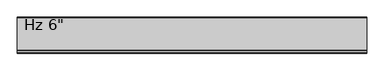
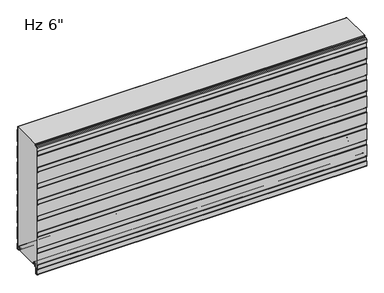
"""IFC4 building model written with IfcOpenShell, lengths in millimetres: plate geometry."""

from ifc_helpers import new_model, si_unit, point, frame, frame_2d, origin, place, context, project, spatial, polyline, circle_curve, trimmed, segment, composite_curve, outline, extrude, source, transform, mapped, element, save
from ifc_brep_helpers import plane_surface, cylinder_surface, revolved_surface, advanced_brep


def plate_8824311e(model_context):
    return source(origin(), model_context, "Body", "SolidModel", [
        advanced_brep(
        [(-730.0, -17.0015368, 2.0313088), (-730.0, -18.00154, 1.0313116), (-730.0, -19.0015313, 2.0313088), (-730.0, -19.0015314, 6.0315125), (-730.0, -18.0015368, 6.0315125), (-730.0, -18.0015368, 8.7237223), (-730.0, -14.7015411, 12.023718), (-730.0, -10.3015499, 12.023718), (-730.0, -7.0015544, 8.7237225), (-730.0, -7.0015544, -1.6962564), (-730.0, -5.2315602, -3.4662506), (-730.0, -1.0000126, -3.4662506), (-730.0, -1.0000126, 21.034026), (-730.0, -2.2002516, 22.4196686), (-730.0, -2.2002516, 41.7948349), (-730.0, -1.0000209, 43.1804679), (-730.0, -1.0000209, 97.2338833), (-730.0, -2.2002516, 98.6195162), (-730.0, -2.2002516, 117.9946825), (-730.0, -1.0000209, 119.3803155), (-730.0, -1.0000209, 173.4337309), (-730.0, -2.2002516, 174.8193638), (-730.0, -2.2002516, 194.1945301), (-730.0, -1.0000209, 195.5801631), (-730.0, -1.0000209, 249.6335785), (-730.0, -2.2002516, 251.0192114), (-730.0, -2.2002516, 270.3943777), (-730.0, -1.0000209, 271.7800107), (-730.0, -1.0000209, 325.8334261), (-730.0, -2.2002516, 327.219059), (-730.0, -2.2002516, 346.5942253), (-730.0, -1.0000209, 347.9798583), (-730.0, -1.0000209, 402.0332737), (-730.0, -2.2002516, 403.4189066), (-730.0, -2.2002516, 422.7940729), (-730.0, -1.0000209, 424.1797059), (-730.0, -1.0000209, 478.2331213), (-730.0, -2.2002516, 479.6187542), (-730.0, -2.2002516, 498.9939205), (-730.0, -1.0000209, 500.3795535), (-730.0, -1.0000209, 554.4329689), (-730.0, -2.2002516, 555.8186018), (-730.0, -2.2002516, 571.2), (-730.0, -1.2002516, 571.2), (-730.0, -1.2002516, 556.1914823), (-730.0, -0.3418094, 555.2004346), (-730.0, -2.09e-05, 554.2838177), (-730.0, -2.09e-05, 500.5287046), (-730.0, -0.3418094, 499.6120877), (-730.0, -1.2002516, 498.6210401), (-730.0, -1.2002516, 479.9916347), (-730.0, -0.3418094, 479.000587), (-730.0, -2.09e-05, 478.0839701), (-730.0, -2.09e-05, 424.328857), (-730.0, -0.3418094, 423.4122401), (-730.0, -1.2002516, 422.4211925), (-730.0, -1.2002516, 403.7917871), (-730.0, -0.3418094, 402.8007394), (-730.0, -2.09e-05, 401.8841225), (-730.0, -2.09e-05, 348.1290094), (-730.0, -0.3418094, 347.2123925), (-730.0, -1.2002516, 346.2213449), (-730.0, -1.2002516, 327.5919395), (-730.0, -0.3418094, 326.6008918), (-730.0, -2.09e-05, 325.6842749), (-730.0, -2.09e-05, 271.9291618), (-730.0, -0.3418094, 271.0125449), (-730.0, -1.2002516, 270.0214973), (-730.0, -1.2002516, 251.3920919), (-730.0, -0.3418094, 250.4010442), (-730.0, -2.09e-05, 249.4844273), (-730.0, -2.09e-05, 195.7293142), (-730.0, -0.3418094, 194.8126973), (-730.0, -1.2002516, 193.8216497), (-730.0, -1.2002516, 175.1922443), (-730.0, -0.3418094, 174.2011966), (-730.0, -2.09e-05, 173.2845797), (-730.0, -2.09e-05, 119.5294666), (-730.0, -0.3418094, 118.6128497), (-730.0, -1.2002516, 117.6218021), (-730.0, -1.2002516, 98.9923967), (-730.0, -0.3418094, 98.001349), (-730.0, -2.09e-05, 97.0847321), (-730.0, -2.09e-05, 43.329619), (-730.0, -0.3418094, 42.4130021), (-730.0, -1.2002516, 41.4219545), (-730.0, -1.2002516, 22.7925491), (-730.0, -0.3418094, 21.8015014), (-730.0, -2.09e-05, 20.8847931), (-730.0, -1.26e-05, -3.0662545), (-730.0, -1.4000087, -4.4662506), (-730.0, -5.2315602, -4.4662506), (-730.0, -8.0015544, -1.6962564), (-730.0, -8.0015544, 8.7237225), (-730.0, -10.3015499, 11.023718), (-730.0, -14.7015411, 11.023718), (-730.0, -17.0015368, 8.7237223), (730.0, -17.0015368, 2.0313088), (730.0, -17.0015368, 8.7237223), (730.0, -14.7015411, 11.023718), (730.0, -10.3015499, 11.023718), (730.0, -8.0015544, 8.7237225), (730.0, -8.0015544, -1.6962564), (730.0, -5.2315602, -4.4662506), (730.0, -1.4000087, -4.4662506), (730.0, -1.26e-05, -3.0662545), (730.0, -1.26e-05, 20.8848845), (730.0, -0.3418094, 21.8015014), (730.0, -1.2002516, 22.7925491), (730.0, -1.2002516, 41.4219545), (730.0, -0.3418094, 42.4130021), (730.0, -2.09e-05, 43.329619), (730.0, -2.09e-05, 97.0847321), (730.0, -0.3418094, 98.001349), (730.0, -1.2002516, 98.9923967), (730.0, -1.2002516, 117.6218021), (730.0, -0.3418094, 118.6128497), (730.0, -2.09e-05, 119.5294666), (730.0, -2.09e-05, 173.2845797), (730.0, -0.3418094, 174.2011966), (730.0, -1.2002516, 175.1922443), (730.0, -1.2002516, 193.8216497), (730.0, -0.3418094, 194.8126973), (730.0, -2.09e-05, 195.7293142), (730.0, -2.09e-05, 249.4844273), (730.0, -0.3418094, 250.4010442), (730.0, -1.2002516, 251.3920919), (730.0, -1.2002516, 270.0214973), (730.0, -0.3418094, 271.0125449), (730.0, -2.09e-05, 271.9291618), (730.0, -2.09e-05, 325.6842749), (730.0, -0.3418094, 326.6008918), (730.0, -1.2002516, 327.5919395), (730.0, -1.2002516, 346.2213449), (730.0, -0.3418094, 347.2123925), (730.0, -2.09e-05, 348.1290094), (730.0, -2.09e-05, 401.8841225), (730.0, -0.3418094, 402.8007394), (730.0, -1.2002516, 403.7917871), (730.0, -1.2002516, 422.4211925), (730.0, -0.3418094, 423.4122401), (730.0, -2.09e-05, 424.328857), (730.0, -2.09e-05, 478.0839701), (730.0, -0.3418094, 479.000587), (730.0, -1.2002516, 479.9916347), (730.0, -1.2002516, 498.6210401), (730.0, -0.3418094, 499.6120877), (730.0, -2.09e-05, 500.5287046), (730.0, -2.09e-05, 554.2838177), (730.0, -0.3418094, 555.2004346), (730.0, -1.2002516, 556.1914823), (730.0, -1.2002516, 571.2), (730.0, -2.2002516, 571.2), (730.0, -2.2002516, 555.8186018), (730.0, -1.0000209, 554.4329689), (730.0, -1.0000209, 500.3795535), (730.0, -2.2002516, 498.9939205), (730.0, -2.2002516, 479.6187542), (730.0, -1.0000209, 478.2331213), (730.0, -1.0000209, 424.1797059), (730.0, -2.2002516, 422.7940729), (730.0, -2.2002516, 403.4189066), (730.0, -1.0000209, 402.0332737), (730.0, -1.0000209, 347.9798583), (730.0, -2.2002516, 346.5942253), (730.0, -2.2002516, 327.219059), (730.0, -1.0000209, 325.8334261), (730.0, -1.0000209, 271.7800107), (730.0, -2.2002516, 270.3943777), (730.0, -2.2002516, 251.0192114), (730.0, -1.0000209, 249.6335785), (730.0, -1.0000209, 195.5801631), (730.0, -2.2002516, 194.1945301), (730.0, -2.2002516, 174.8193638), (730.0, -1.0000209, 173.4337309), (730.0, -1.0000209, 119.3803155), (730.0, -2.2002516, 117.9946825), (730.0, -2.2002516, 98.6195162), (730.0, -1.0000209, 97.2338833), (730.0, -1.0000209, 43.1804679), (730.0, -2.2002516, 41.7948349), (730.0, -2.2002516, 22.4196686), (730.0, -1.0000126, 21.034026), (730.0, -1.0000126, -3.4662506), (730.0, -5.2315602, -3.4662506), (730.0, -7.0015544, -1.6962564), (730.0, -7.0015544, 8.7237225), (730.0, -10.3015499, 12.023718), (730.0, -14.7015411, 12.023718), (730.0, -18.0015368, 8.7237223), (730.0, -18.0015368, 6.0315125), (730.0, -19.0015314, 6.0315125), (730.0, -19.0015314, 2.0313088), (730.0, -18.00154, 1.0313116)],
        [
            (0, 1, circle_curve(frame((-730.0, -18.0015341, 2.0313088), z_axis=(-1.0, 0.0, 0.0), x_axis=(0.0, 0.0, 1.0)), 0.9999973)),
            (1, 2, circle_curve(frame((-730.0, -18.0015341, 2.0313088), z_axis=(-1.0, 0.0, 0.0), x_axis=(0.0, 0.0, 1.0)), 0.9999972)),
            (2, 3),
            (3, 4),
            (4, 5),
            (5, 6, circle_curve(frame((-730.0, -14.7015411, 8.7237223), z_axis=(-1.0, 0.0, 0.0), x_axis=(0.0, 0.0, 1.0)), 3.2999957)),
            (6, 7),
            (7, 8, circle_curve(frame((-730.0, -10.3015499, 8.7237225), z_axis=(-1.0, 0.0, 0.0), x_axis=(0.0, 0.0, 1.0)), 3.2999955)),
            (8, 9),
            (9, 10, circle_curve(frame((-730.0, -5.2315602, -1.6962564), z_axis=(1.0, 0.0, 0.0), x_axis=(0.0, 0.0, 1.0)), 1.7699942)),
            (10, 11),
            (11, 12),
            (12, 13),
            (13, 14),
            (14, 15),
            (15, 16),
            (16, 17),
            (17, 18),
            (18, 19),
            (19, 20),
            (20, 21),
            (21, 22),
            (22, 23),
            (23, 24),
            (24, 25),
            (25, 26),
            (26, 27),
            (27, 28),
            (28, 29),
            (29, 30),
            (30, 31),
            (31, 32),
            (32, 33),
            (33, 34),
            (34, 35),
            (35, 36),
            (36, 37),
            (37, 38),
            (38, 39),
            (39, 40),
            (40, 41),
            (41, 42),
            (42, 43),
            (43, 44),
            (44, 45),
            (45, 46, circle_curve(frame((-730.0, -1.4000181, 554.2838177), z_axis=(-1.0, 0.0, 0.0), x_axis=(0.0, 0.0, 1.0)), 1.3999972)),
            (46, 47),
            (47, 48, circle_curve(frame((-730.0, -1.4000181, 500.5287046), z_axis=(-1.0, 0.0, 0.0), x_axis=(0.0, 0.0, 1.0)), 1.3999972)),
            (48, 49),
            (49, 50),
            (50, 51),
            (51, 52, circle_curve(frame((-730.0, -1.4000181, 478.0839701), z_axis=(-1.0, 0.0, 0.0), x_axis=(0.0, 0.0, 1.0)), 1.3999972)),
            (52, 53),
            (53, 54, circle_curve(frame((-730.0, -1.4000181, 424.328857), z_axis=(-1.0, 0.0, 0.0), x_axis=(0.0, 0.0, 1.0)), 1.3999972)),
            (54, 55),
            (55, 56),
            (56, 57),
            (57, 58, circle_curve(frame((-730.0, -1.4000181, 401.8841225), z_axis=(-1.0, 0.0, 0.0), x_axis=(0.0, 0.0, 1.0)), 1.3999972)),
            (58, 59),
            (59, 60, circle_curve(frame((-730.0, -1.4000181, 348.1290094), z_axis=(-1.0, 0.0, 0.0), x_axis=(0.0, 0.0, 1.0)), 1.3999972)),
            (60, 61),
            (61, 62),
            (62, 63),
            (63, 64, circle_curve(frame((-730.0, -1.4000181, 325.6842749), z_axis=(-1.0, 0.0, 0.0), x_axis=(0.0, 0.0, 1.0)), 1.3999972)),
            (64, 65),
            (65, 66, circle_curve(frame((-730.0, -1.4000181, 271.9291618), z_axis=(-1.0, 0.0, 0.0), x_axis=(0.0, 0.0, 1.0)), 1.3999972)),
            (66, 67),
            (67, 68),
            (68, 69),
            (69, 70, circle_curve(frame((-730.0, -1.4000181, 249.4844273), z_axis=(-1.0, 0.0, 0.0), x_axis=(0.0, 0.0, 1.0)), 1.3999972)),
            (70, 71),
            (71, 72, circle_curve(frame((-730.0, -1.4000181, 195.7293142), z_axis=(-1.0, 0.0, 0.0), x_axis=(0.0, 0.0, 1.0)), 1.3999972)),
            (72, 73),
            (73, 74),
            (74, 75),
            (75, 76, circle_curve(frame((-730.0, -1.4000181, 173.2845797), z_axis=(-1.0, 0.0, 0.0), x_axis=(0.0, 0.0, 1.0)), 1.3999972)),
            (76, 77),
            (77, 78, circle_curve(frame((-730.0, -1.4000181, 119.5294666), z_axis=(-1.0, 0.0, 0.0), x_axis=(0.0, 0.0, 1.0)), 1.3999972)),
            (78, 79),
            (79, 80),
            (80, 81),
            (81, 82, circle_curve(frame((-730.0, -1.4000181, 97.0847321), z_axis=(-1.0, 0.0, 0.0), x_axis=(0.0, 0.0, 1.0)), 1.3999972)),
            (82, 83),
            (83, 84, circle_curve(frame((-730.0, -1.4000181, 43.329619), z_axis=(-1.0, 0.0, 0.0), x_axis=(0.0, 0.0, 1.0)), 1.3999972)),
            (84, 85),
            (85, 86),
            (86, 87),
            (87, 88, circle_curve(frame((-730.0, -1.4000181, 20.8848845), z_axis=(-1.0, 0.0, 0.0), x_axis=(0.0, 0.0, 1.0)), 1.3999972)),
            (88, 89),
            (89, 90, circle_curve(frame((-730.0, -1.4000087, -3.0662545), z_axis=(-1.0, 0.0, 0.0), x_axis=(0.0, 0.0, 1.0)), 1.3999962)),
            (90, 91),
            (91, 92, circle_curve(frame((-730.0, -5.2315602, -1.6962564), z_axis=(-1.0, 0.0, 0.0), x_axis=(0.0, 0.0, 1.0)), 2.7699942)),
            (92, 93),
            (93, 94, circle_curve(frame((-730.0, -10.3015499, 8.7237225), z_axis=(1.0, 0.0, 0.0), x_axis=(0.0, 0.0, 1.0)), 2.2999955)),
            (94, 95),
            (95, 96, circle_curve(frame((-730.0, -14.7015411, 8.7237223), z_axis=(1.0, 0.0, 0.0), x_axis=(0.0, 0.0, 1.0)), 2.2999957)),
            (96, 0),
            (97, 98),
            (98, 99, circle_curve(frame((730.0, -14.7015411, 8.7237223), z_axis=(-1.0, 0.0, 0.0), x_axis=(0.0, 0.0, 1.0)), 2.2999957)),
            (99, 100),
            (100, 101, circle_curve(frame((730.0, -10.3015499, 8.7237225), z_axis=(-1.0, 0.0, 0.0), x_axis=(0.0, 0.0, 1.0)), 2.2999955)),
            (101, 102),
            (102, 103, circle_curve(frame((730.0, -5.2315602, -1.6962564), z_axis=(1.0, 0.0, 0.0), x_axis=(0.0, 0.0, 1.0)), 2.7699942)),
            (103, 104),
            (104, 105, circle_curve(frame((730.0, -1.4000087, -3.0662545), z_axis=(1.0, 0.0, 0.0), x_axis=(0.0, 0.0, 1.0)), 1.3999962)),
            (105, 106),
            (106, 107, circle_curve(frame((730.0, -1.4000181, 20.8848845), z_axis=(1.0, 0.0, 0.0), x_axis=(0.0, 0.0, 1.0)), 1.3999972)),
            (107, 108),
            (108, 109),
            (109, 110),
            (110, 111, circle_curve(frame((730.0, -1.4000181, 43.329619), z_axis=(1.0, 0.0, 0.0), x_axis=(0.0, 0.0, 1.0)), 1.3999972)),
            (111, 112),
            (112, 113, circle_curve(frame((730.0, -1.4000181, 97.0847321), z_axis=(1.0, 0.0, 0.0), x_axis=(0.0, 0.0, 1.0)), 1.3999972)),
            (113, 114),
            (114, 115),
            (115, 116),
            (116, 117, circle_curve(frame((730.0, -1.4000181, 119.5294666), z_axis=(1.0, 0.0, 0.0), x_axis=(0.0, 0.0, 1.0)), 1.3999972)),
            (117, 118),
            (118, 119, circle_curve(frame((730.0, -1.4000181, 173.2845797), z_axis=(1.0, 0.0, 0.0), x_axis=(0.0, 0.0, 1.0)), 1.3999972)),
            (119, 120),
            (120, 121),
            (121, 122),
            (122, 123, circle_curve(frame((730.0, -1.4000181, 195.7293142), z_axis=(1.0, 0.0, 0.0), x_axis=(0.0, 0.0, 1.0)), 1.3999972)),
            (123, 124),
            (124, 125, circle_curve(frame((730.0, -1.4000181, 249.4844273), z_axis=(1.0, 0.0, 0.0), x_axis=(0.0, 0.0, 1.0)), 1.3999972)),
            (125, 126),
            (126, 127),
            (127, 128),
            (128, 129, circle_curve(frame((730.0, -1.4000181, 271.9291618), z_axis=(1.0, 0.0, 0.0), x_axis=(0.0, 0.0, 1.0)), 1.3999972)),
            (129, 130),
            (130, 131, circle_curve(frame((730.0, -1.4000181, 325.6842749), z_axis=(1.0, 0.0, 0.0), x_axis=(0.0, 0.0, 1.0)), 1.3999972)),
            (131, 132),
            (132, 133),
            (133, 134),
            (134, 135, circle_curve(frame((730.0, -1.4000181, 348.1290094), z_axis=(1.0, 0.0, 0.0), x_axis=(0.0, 0.0, 1.0)), 1.3999972)),
            (135, 136),
            (136, 137, circle_curve(frame((730.0, -1.4000181, 401.8841225), z_axis=(1.0, 0.0, 0.0), x_axis=(0.0, 0.0, 1.0)), 1.3999972)),
            (137, 138),
            (138, 139),
            (139, 140),
            (140, 141, circle_curve(frame((730.0, -1.4000181, 424.328857), z_axis=(1.0, 0.0, 0.0), x_axis=(0.0, 0.0, 1.0)), 1.3999972)),
            (141, 142),
            (142, 143, circle_curve(frame((730.0, -1.4000181, 478.0839701), z_axis=(1.0, 0.0, 0.0), x_axis=(0.0, 0.0, 1.0)), 1.3999972)),
            (143, 144),
            (144, 145),
            (145, 146),
            (146, 147, circle_curve(frame((730.0, -1.4000181, 500.5287046), z_axis=(1.0, 0.0, 0.0), x_axis=(0.0, 0.0, 1.0)), 1.3999972)),
            (147, 148),
            (148, 149, circle_curve(frame((730.0, -1.4000181, 554.2838177), z_axis=(1.0, 0.0, 0.0), x_axis=(0.0, 0.0, 1.0)), 1.3999972)),
            (149, 150),
            (150, 151),
            (151, 152),
            (152, 153),
            (153, 154),
            (154, 155),
            (155, 156),
            (156, 157),
            (157, 158),
            (158, 159),
            (159, 160),
            (160, 161),
            (161, 162),
            (162, 163),
            (163, 164),
            (164, 165),
            (165, 166),
            (166, 167),
            (167, 168),
            (168, 169),
            (169, 170),
            (170, 171),
            (171, 172),
            (172, 173),
            (173, 174),
            (174, 175),
            (175, 176),
            (176, 177),
            (177, 178),
            (178, 179),
            (179, 180),
            (180, 181),
            (181, 182),
            (182, 183),
            (183, 184),
            (184, 185, circle_curve(frame((730.0, -5.2315602, -1.6962564), z_axis=(-1.0, 0.0, 0.0), x_axis=(0.0, 0.0, 1.0)), 1.7699942)),
            (185, 186),
            (186, 187, circle_curve(frame((730.0, -10.3015499, 8.7237225), z_axis=(1.0, 0.0, 0.0), x_axis=(0.0, 0.0, 1.0)), 3.2999955)),
            (187, 188),
            (188, 189, circle_curve(frame((730.0, -14.7015411, 8.7237223), z_axis=(1.0, 0.0, 0.0), x_axis=(0.0, 0.0, 1.0)), 3.2999957)),
            (189, 190),
            (190, 191),
            (191, 192),
            (192, 193, circle_curve(frame((730.0, -18.0015341, 2.0313088), z_axis=(1.0, 0.0, 0.0), x_axis=(0.0, 0.0, 1.0)), 0.9999972)),
            (193, 97, circle_curve(frame((730.0, -18.0015341, 2.0313088), z_axis=(1.0, 0.0, 0.0), x_axis=(0.0, 0.0, 1.0)), 0.9999973)),
            (96, 98),
            (97, 0),
            (95, 99),
            (94, 100),
            (93, 101),
            (92, 102),
            (91, 103),
            (90, 104),
            (89, 105),
            (88, 106),
            (70, 124),
            (123, 71),
            (87, 107),
            (86, 108),
            (85, 109),
            (83, 111),
            (110, 84),
            (81, 113),
            (112, 82),
            (66, 128),
            (127, 67),
            (122, 72),
            (121, 73),
            (76, 118),
            (117, 77),
            (69, 125),
            (68, 126),
            (65, 129),
            (116, 78),
            (79, 115),
            (114, 80),
            (75, 119),
            (74, 120),
            (2, 192),
            (191, 3),
            (1, 193),
            (64, 130),
            (63, 131),
            (62, 132),
            (61, 133),
            (60, 134),
            (59, 135),
            (58, 136),
            (31, 163),
            (162, 32),
            (30, 164),
            (29, 165),
            (28, 166),
            (27, 167),
            (26, 168),
            (25, 169),
            (24, 170),
            (23, 171),
            (22, 172),
            (21, 173),
            (20, 174),
            (19, 175),
            (18, 176),
            (17, 177),
            (16, 178),
            (15, 179),
            (14, 180),
            (13, 181),
            (12, 182),
            (11, 183),
            (10, 184),
            (9, 185),
            (8, 186),
            (7, 187),
            (6, 188),
            (5, 189),
            (4, 190),
            (42, 152),
            (151, 43),
            (57, 137),
            (56, 138),
            (54, 140),
            (139, 55),
            (51, 143),
            (142, 52),
            (50, 144),
            (48, 146),
            (145, 49),
            (45, 149),
            (148, 46),
            (44, 150),
            (41, 153),
            (40, 154),
            (39, 155),
            (38, 156),
            (53, 141),
            (47, 147),
            (37, 157),
            (36, 158),
            (35, 159),
            (34, 160),
            (33, 161),
        ],
        [
            plane_surface(frame((-730.0, -2.09e-05, 304.8), z_axis=(-1.0, 0.0, 0.0), x_axis=(0.0, 1.0, 0.0))),
            plane_surface(frame((730.0, -2.09e-05, 304.8), z_axis=(1.0, 0.0, 0.0), x_axis=(0.0, 1.0, 0.0))),
            plane_surface(frame((-730.0, -17.0015368, 2.0313088), z_axis=(0.0, 1.0, 0.0), x_axis=(1.0, 0.0, 0.0))),
            revolved_surface(polyline([(730.0, -14.7015411, 11.023718), (-730.0, -14.7015411, 11.023718)]), (-730.0, -14.7015411, 8.7237223), (1.0, 0.0, 0.0)),
            plane_surface(frame((-730.0, -14.7015411, 11.023718), z_axis=(0.0, 0.0, -1.0), x_axis=(1.0, 0.0, 0.0))),
            revolved_surface(polyline([(730.0, -10.3015499, 11.023717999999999), (-730.0, -10.3015499, 11.023717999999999)]), (-730.0, -10.3015499, 8.7237225), (1.0, 0.0, 0.0)),
            plane_surface(frame((-730.0, -8.0015544, 8.7237225), z_axis=(0.0, -1.0, 0.0), x_axis=(1.0, 0.0, 0.0))),
            cylinder_surface(frame((-730.0, -5.2315602, -1.6962564), z_axis=(-1.0, 0.0, 0.0), x_axis=(0.0, 0.0, 1.0)), 2.7699942),
            plane_surface(frame((-730.0, -5.2315602, -4.4662506), z_axis=(0.0, 0.0, -1.0), x_axis=(1.0, 0.0, 0.0))),
            cylinder_surface(frame((-730.0, -1.4000087, -3.0662545), z_axis=(-1.0, 0.0, 0.0), x_axis=(0.0, 0.0, 1.0)), 1.3999962),
            plane_surface(frame((-730.0, -1.26e-05, -3.0662545), z_axis=(0.0, 1.0, 0.0), x_axis=(1.0, 0.0, 0.0))),
            plane_surface(frame((-730.0, -2.09e-05, 195.7293142), z_axis=(0.0, 1.0, 0.0), x_axis=(1.0, 0.0, 0.0))),
            cylinder_surface(frame((-730.0, -1.4000181, 20.8848845), z_axis=(-1.0, 0.0, 0.0), x_axis=(0.0, 0.0, 1.0)), 1.3999972),
            plane_surface(frame((-730.0, -0.3418094, 21.8015014), z_axis=(0.0, 0.755864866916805, 0.6547276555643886), x_axis=(1.0, 0.0, 0.0))),
            plane_surface(frame((-730.0, -1.2002516, 32.1072518), z_axis=(0.0, 1.0, 0.0), x_axis=(1.0, 0.0, 0.0))),
            cylinder_surface(frame((-730.0, -1.4000181, 43.329619), z_axis=(-1.0, 0.0, 0.0), x_axis=(0.0, 0.0, 1.0)), 1.3999972),
            plane_surface(frame((-730.0, -1.2002516, 41.4219545), z_axis=(0.0, 0.755864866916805, -0.6547276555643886), x_axis=(1.0, 0.0, 0.0))),
            cylinder_surface(frame((-730.0, -1.4000181, 97.0847321), z_axis=(-1.0, 0.0, 0.0), x_axis=(0.0, 0.0, 1.0)), 1.3999972),
            plane_surface(frame((-730.0, -1.2002516, 270.0214973), z_axis=(0.0, 0.755864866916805, -0.6547276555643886), x_axis=(1.0, 0.0, 0.0))),
            cylinder_surface(frame((-730.0, -1.4000181, 195.7293142), z_axis=(-1.0, 0.0, 0.0), x_axis=(0.0, 0.0, 1.0)), 1.3999972),
            plane_surface(frame((-730.0, -1.2002516, 193.8216497), z_axis=(0.0, 0.755864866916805, -0.6547276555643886), x_axis=(1.0, 0.0, 0.0))),
            plane_surface(frame((-730.0, -2.09e-05, 119.5294666), z_axis=(0.0, 1.0, 0.0), x_axis=(1.0, 0.0, 0.0))),
            cylinder_surface(frame((-730.0, -1.4000181, 249.4844273), z_axis=(-1.0, 0.0, 0.0), x_axis=(0.0, 0.0, 1.0)), 1.3999972),
            plane_surface(frame((-730.0, -0.3418094, 250.4010442), z_axis=(0.0, 0.755864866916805, 0.6547276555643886), x_axis=(1.0, 0.0, 0.0))),
            plane_surface(frame((-730.0, -1.2002516, 260.7067946), z_axis=(0.0, 1.0, 0.0), x_axis=(1.0, 0.0, 0.0))),
            cylinder_surface(frame((-730.0, -1.4000181, 271.9291618), z_axis=(-1.0, 0.0, 0.0), x_axis=(0.0, 0.0, 1.0)), 1.3999972),
            cylinder_surface(frame((-730.0, -1.4000181, 119.5294666), z_axis=(-1.0, 0.0, 0.0), x_axis=(0.0, 0.0, 1.0)), 1.3999972),
            plane_surface(frame((-730.0, -1.2002516, 108.3070994), z_axis=(0.0, 1.0, 0.0), x_axis=(1.0, 0.0, 0.0))),
            plane_surface(frame((-730.0, -0.3418094, 98.001349), z_axis=(0.0, 0.755864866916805, 0.6547276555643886), x_axis=(1.0, 0.0, 0.0))),
            plane_surface(frame((-730.0, -1.2002516, 117.6218021), z_axis=(0.0, 0.755864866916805, -0.6547276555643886), x_axis=(1.0, 0.0, 0.0))),
            plane_surface(frame((-730.0, -2.09e-05, 43.329619), z_axis=(0.0, 1.0, 0.0), x_axis=(1.0, 0.0, 0.0))),
            cylinder_surface(frame((-730.0, -1.4000181, 173.2845797), z_axis=(-1.0, 0.0, 0.0), x_axis=(0.0, 0.0, 1.0)), 1.3999972),
            plane_surface(frame((-730.0, -0.3418094, 174.2011966), z_axis=(0.0, 0.755864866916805, 0.6547276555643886), x_axis=(1.0, 0.0, 0.0))),
            plane_surface(frame((-730.0, -1.2002516, 184.506947), z_axis=(0.0, 1.0, 0.0), x_axis=(1.0, 0.0, 0.0))),
            plane_surface(frame((-730.0, -19.0015314, 6.0315125), z_axis=(0.0, -1.0, 0.0), x_axis=(1.0, 0.0, 0.0))),
            cylinder_surface(frame((-730.0, -18.0015341, 2.0313088), z_axis=(-1.0, 0.0, 0.0), x_axis=(0.0, 0.0, 1.0)), 0.9999972),
            cylinder_surface(frame((-730.0, -18.0015341, 2.0313088), z_axis=(-1.0, 0.0, 0.0), x_axis=(0.0, 0.0, 1.0)), 0.9999973),
            plane_surface(frame((-730.0, -2.09e-05, 271.9291618), z_axis=(0.0, 1.0, 0.0), x_axis=(1.0, 0.0, 0.0))),
            cylinder_surface(frame((-730.0, -1.4000181, 325.6842749), z_axis=(-1.0, 0.0, 0.0), x_axis=(0.0, 0.0, 1.0)), 1.3999972),
            plane_surface(frame((-730.0, -0.3418094, 326.6008918), z_axis=(0.0, 0.755864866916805, 0.6547276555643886), x_axis=(1.0, 0.0, 0.0))),
            plane_surface(frame((-730.0, -1.2002516, 336.9066422), z_axis=(0.0, 1.0, 0.0), x_axis=(1.0, 0.0, 0.0))),
            plane_surface(frame((-730.0, -1.2002516, 346.2213449), z_axis=(0.0, 0.755864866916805, -0.6547276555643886), x_axis=(1.0, 0.0, 0.0))),
            cylinder_surface(frame((-730.0, -1.4000181, 348.1290094), z_axis=(-1.0, 0.0, 0.0), x_axis=(0.0, 0.0, 1.0)), 1.3999972),
            plane_surface(frame((-730.0, -2.09e-05, 348.1290094), z_axis=(0.0, 1.0, 0.0), x_axis=(1.0, 0.0, 0.0))),
            plane_surface(frame((-730.0, -1.0000209, 402.0332737), z_axis=(0.0, -1.0, 0.0), x_axis=(1.0, 0.0, 0.0))),
            plane_surface(frame((-730.0, -1.0000209, 347.9798583), z_axis=(0.0, -0.755864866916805, 0.6547276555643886), x_axis=(1.0, 0.0, 0.0))),
            plane_surface(frame((-730.0, -2.2002516, 346.5942253), z_axis=(0.0, -1.0, 0.0), x_axis=(1.0, 0.0, 0.0))),
            plane_surface(frame((-730.0, -2.2002516, 327.219059), z_axis=(0.0, -0.755864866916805, -0.6547276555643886), x_axis=(1.0, 0.0, 0.0))),
            plane_surface(frame((-730.0, -1.0000209, 325.8334261), z_axis=(0.0, -1.0, 0.0), x_axis=(1.0, 0.0, 0.0))),
            plane_surface(frame((-730.0, -1.0000209, 271.7800107), z_axis=(0.0, -0.755864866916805, 0.6547276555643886), x_axis=(1.0, 0.0, 0.0))),
            plane_surface(frame((-730.0, -2.2002516, 270.3943777), z_axis=(0.0, -1.0, 0.0), x_axis=(1.0, 0.0, 0.0))),
            plane_surface(frame((-730.0, -2.2002516, 251.0192114), z_axis=(0.0, -0.755864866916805, -0.6547276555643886), x_axis=(1.0, 0.0, 0.0))),
            plane_surface(frame((-730.0, -1.0000209, 249.6335785), z_axis=(0.0, -1.0, 0.0), x_axis=(1.0, 0.0, 0.0))),
            plane_surface(frame((-730.0, -1.0000209, 195.5801631), z_axis=(0.0, -0.755864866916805, 0.6547276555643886), x_axis=(1.0, 0.0, 0.0))),
            plane_surface(frame((-730.0, -2.2002516, 194.1945301), z_axis=(0.0, -1.0, 0.0), x_axis=(1.0, 0.0, 0.0))),
            plane_surface(frame((-730.0, -2.2002516, 174.8193638), z_axis=(0.0, -0.755864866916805, -0.6547276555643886), x_axis=(1.0, 0.0, 0.0))),
            plane_surface(frame((-730.0, -1.0000209, 173.4337309), z_axis=(0.0, -1.0, 0.0), x_axis=(1.0, 0.0, 0.0))),
            plane_surface(frame((-730.0, -1.0000209, 119.3803155), z_axis=(0.0, -0.755864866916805, 0.6547276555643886), x_axis=(1.0, 0.0, 0.0))),
            plane_surface(frame((-730.0, -2.2002516, 117.9946825), z_axis=(0.0, -1.0, 0.0), x_axis=(1.0, 0.0, 0.0))),
            plane_surface(frame((-730.0, -2.2002516, 98.6195162), z_axis=(0.0, -0.755864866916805, -0.6547276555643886), x_axis=(1.0, 0.0, 0.0))),
            plane_surface(frame((-730.0, -1.0000209, 97.2338833), z_axis=(0.0, -1.0, 0.0), x_axis=(1.0, 0.0, 0.0))),
            plane_surface(frame((-730.0, -1.0000209, 43.1804679), z_axis=(0.0, -0.755864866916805, 0.6547276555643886), x_axis=(1.0, 0.0, 0.0))),
            plane_surface(frame((-730.0, -2.2002516, 41.7948349), z_axis=(0.0, -1.0, 0.0), x_axis=(1.0, 0.0, 0.0))),
            plane_surface(frame((-730.0, -2.2002516, 22.4196686), z_axis=(0.0, -0.755864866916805, -0.6547276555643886), x_axis=(1.0, 0.0, 0.0))),
            plane_surface(frame((-730.0, -1.0000126, 21.034026), z_axis=(0.0, -1.0, 0.0), x_axis=(1.0, 0.0, 0.0))),
            plane_surface(frame((-730.0, -1.0000126, -3.4662506), z_axis=(0.0, 0.0, 1.0), x_axis=(1.0, 0.0, 0.0))),
            revolved_surface(polyline([(730.0, -5.2315602, 0.07373779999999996), (-730.0, -5.2315602, 0.07373779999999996)]), (-730.0, -5.2315602, -1.6962564), (1.0, 0.0, 0.0)),
            plane_surface(frame((-730.0, -7.0015544, -1.6962564), z_axis=(0.0, 1.0, 0.0), x_axis=(1.0, 0.0, 0.0))),
            cylinder_surface(frame((-730.0, -10.3015499, 8.7237225), z_axis=(-1.0, 0.0, 0.0), x_axis=(0.0, 0.0, 1.0)), 3.2999955),
            plane_surface(frame((-730.0, -10.3015499, 12.023718), z_axis=(0.0, 0.0, 1.0), x_axis=(1.0, 0.0, 0.0))),
            cylinder_surface(frame((-730.0, -14.7015411, 8.7237223), z_axis=(-1.0, 0.0, 0.0), x_axis=(0.0, 0.0, 1.0)), 3.2999957),
            plane_surface(frame((-730.0, -18.0015368, 8.7237223), z_axis=(0.0, -1.0, 0.0), x_axis=(1.0, 0.0, 0.0))),
            plane_surface(frame((-730.0, -18.0015368, 6.0315125), z_axis=(0.0, 0.0, 1.0), x_axis=(1.0, 0.0, 0.0))),
            plane_surface(frame((730.0, 9.9999791, 571.2), z_axis=(0.0, 0.0, 1.0), x_axis=(-1.0, 0.0, 0.0))),
            cylinder_surface(frame((-730.0, -1.4000181, 401.8841225), z_axis=(-1.0, 0.0, 0.0), x_axis=(0.0, 0.0, 1.0)), 1.3999972),
            plane_surface(frame((-730.0, -0.3418094, 402.8007394), z_axis=(0.0, 0.755864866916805, 0.6547276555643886), x_axis=(1.0, 0.0, 0.0))),
            plane_surface(frame((-730.0, -1.2002516, 422.4211925), z_axis=(0.0, 0.755864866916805, -0.6547276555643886), x_axis=(1.0, 0.0, 0.0))),
            cylinder_surface(frame((-730.0, -1.4000181, 478.0839701), z_axis=(-1.0, 0.0, 0.0), x_axis=(0.0, 0.0, 1.0)), 1.3999972),
            plane_surface(frame((-730.0, -0.3418094, 479.000587), z_axis=(0.0, 0.755864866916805, 0.6547276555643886), x_axis=(1.0, 0.0, 0.0))),
            plane_surface(frame((-730.0, -1.2002516, 498.6210401), z_axis=(0.0, 0.755864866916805, -0.6547276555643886), x_axis=(1.0, 0.0, 0.0))),
            cylinder_surface(frame((-730.0, -1.4000181, 554.2838177), z_axis=(-1.0, 0.0, 0.0), x_axis=(0.0, 0.0, 1.0)), 1.3999972),
            plane_surface(frame((-730.0, -0.3418094, 555.2004346), z_axis=(0.0, 0.755864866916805, 0.6547276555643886), x_axis=(1.0, 0.0, 0.0))),
            plane_surface(frame((-730.0, -2.2002516, 575.1937681), z_axis=(0.0, -1.0, 0.0), x_axis=(1.0, 0.0, 0.0))),
            plane_surface(frame((-730.0, -2.2002516, 555.8186018), z_axis=(0.0, -0.755864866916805, -0.6547276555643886), x_axis=(1.0, 0.0, 0.0))),
            plane_surface(frame((-730.0, -1.0000209, 554.4329689), z_axis=(0.0, -1.0, 0.0), x_axis=(1.0, 0.0, 0.0))),
            plane_surface(frame((-730.0, -1.0000209, 500.3795535), z_axis=(0.0, -0.755864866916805, 0.6547276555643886), x_axis=(1.0, 0.0, 0.0))),
            plane_surface(frame((-730.0, -1.2002516, 413.1064898), z_axis=(0.0, 1.0, 0.0), x_axis=(1.0, 0.0, 0.0))),
            cylinder_surface(frame((-730.0, -1.4000181, 424.328857), z_axis=(-1.0, 0.0, 0.0), x_axis=(0.0, 0.0, 1.0)), 1.3999972),
            plane_surface(frame((-730.0, -2.09e-05, 424.328857), z_axis=(0.0, 1.0, 0.0), x_axis=(1.0, 0.0, 0.0))),
            plane_surface(frame((-730.0, -1.2002516, 489.3063374), z_axis=(0.0, 1.0, 0.0), x_axis=(1.0, 0.0, 0.0))),
            cylinder_surface(frame((-730.0, -1.4000181, 500.5287046), z_axis=(-1.0, 0.0, 0.0), x_axis=(0.0, 0.0, 1.0)), 1.3999972),
            plane_surface(frame((-730.0, -2.09e-05, 500.5287046), z_axis=(0.0, 1.0, 0.0), x_axis=(1.0, 0.0, 0.0))),
            plane_surface(frame((-730.0, -1.2002516, 565.506185), z_axis=(0.0, 1.0, 0.0), x_axis=(1.0, 0.0, 0.0))),
            plane_surface(frame((-730.0, -2.2002516, 498.9939205), z_axis=(0.0, -1.0, 0.0), x_axis=(1.0, 0.0, 0.0))),
            plane_surface(frame((-730.0, -2.2002516, 479.6187542), z_axis=(0.0, -0.755864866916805, -0.6547276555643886), x_axis=(1.0, 0.0, 0.0))),
            plane_surface(frame((-730.0, -1.0000209, 478.2331213), z_axis=(0.0, -1.0, 0.0), x_axis=(1.0, 0.0, 0.0))),
            plane_surface(frame((-730.0, -1.0000209, 424.1797059), z_axis=(0.0, -0.755864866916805, 0.6547276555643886), x_axis=(1.0, 0.0, 0.0))),
            plane_surface(frame((-730.0, -2.2002516, 422.7940729), z_axis=(0.0, -1.0, 0.0), x_axis=(1.0, 0.0, 0.0))),
            plane_surface(frame((-730.0, -2.2002516, 403.4189066), z_axis=(0.0, -0.755864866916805, -0.6547276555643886), x_axis=(1.0, 0.0, 0.0))),
        ],
        [
            (0, [[1, 2, 3, 4, 5, 6, 7, 8, 9, 10, 11, 12, 13, 14, 15, 16, 17, 18, 19, 20, 21, 22, 23, 24, 25, 26, 27, 28, 29, 30, 31, 32, 33, 34, 35, 36, 37, 38, 39, 40, 41, 42, 43, 44, 45, 46, 47, 48, 49, 50, 51, 52, 53, 54, 55, 56, 57, 58, 59, 60, 61, 62, 63, 64, 65, 66, 67, 68, 69, 70, 71, 72, 73, 74, 75, 76, 77, 78, 79, 80, 81, 82, 83, 84, 85, 86, 87, 88, 89, 90, 91, 92, 93, 94, 95, 96, 97]]),
            (1, [[98, 99, 100, 101, 102, 103, 104, 105, 106, 107, 108, 109, 110, 111, 112, 113, 114, 115, 116, 117, 118, 119, 120, 121, 122, 123, 124, 125, 126, 127, 128, 129, 130, 131, 132, 133, 134, 135, 136, 137, 138, 139, 140, 141, 142, 143, 144, 145, 146, 147, 148, 149, 150, 151, 152, 153, 154, 155, 156, 157, 158, 159, 160, 161, 162, 163, 164, 165, 166, 167, 168, 169, 170, 171, 172, 173, 174, 175, 176, 177, 178, 179, 180, 181, 182, 183, 184, 185, 186, 187, 188, 189, 190, 191, 192, 193, 194]]),
            (2, [[195, -98, 196, -97]]),
            (3, [[197, -99, -195, -96]]),
            (4, [[198, -100, -197, -95]]),
            (5, [[199, -101, -198, -94]]),
            (6, [[200, -102, -199, -93]]),
            (7, [[201, -103, -200, -92]]),
            (8, [[202, -104, -201, -91]]),
            (9, [[203, -105, -202, -90]]),
            (10, [[204, -106, -203, -89]]),
            (11, [[205, -124, 206, -71]]),
            (12, [[207, -107, -204, -88]]),
            (13, [[208, -108, -207, -87]]),
            (14, [[209, -109, -208, -86]]),
            (15, [[210, -111, 211, -84]]),
            (16, [[-211, -110, -209, -85]]),
            (17, [[212, -113, 213, -82]]),
            (18, [[214, -128, 215, -67]]),
            (19, [[-206, -123, 216, -72]]),
            (20, [[-216, -122, 217, -73]]),
            (21, [[218, -118, 219, -77]]),
            (22, [[220, -125, -205, -70]]),
            (23, [[221, -126, -220, -69]]),
            (24, [[-215, -127, -221, -68]]),
            (25, [[222, -129, -214, -66]]),
            (26, [[-219, -117, 223, -78]]),
            (27, [[224, -115, 225, -80]]),
            (28, [[-225, -114, -212, -81]]),
            (29, [[-223, -116, -224, -79]]),
            (30, [[-213, -112, -210, -83]]),
            (31, [[226, -119, -218, -76]]),
            (32, [[227, -120, -226, -75]]),
            (33, [[-217, -121, -227, -74]]),
            (34, [[228, -192, 229, -3]]),
            (35, [[230, -193, -228, -2]]),
            (36, [[-196, -194, -230, -1]]),
            (37, [[231, -130, -222, -65]]),
            (38, [[232, -131, -231, -64]]),
            (39, [[233, -132, -232, -63]]),
            (40, [[234, -133, -233, -62]]),
            (41, [[235, -134, -234, -61]]),
            (42, [[236, -135, -235, -60]]),
            (43, [[237, -136, -236, -59]]),
            (44, [[238, -163, 239, -32]]),
            (45, [[240, -164, -238, -31]]),
            (46, [[241, -165, -240, -30]]),
            (47, [[242, -166, -241, -29]]),
            (48, [[243, -167, -242, -28]]),
            (49, [[244, -168, -243, -27]]),
            (50, [[245, -169, -244, -26]]),
            (51, [[246, -170, -245, -25]]),
            (52, [[247, -171, -246, -24]]),
            (53, [[248, -172, -247, -23]]),
            (54, [[249, -173, -248, -22]]),
            (55, [[250, -174, -249, -21]]),
            (56, [[251, -175, -250, -20]]),
            (57, [[252, -176, -251, -19]]),
            (58, [[253, -177, -252, -18]]),
            (59, [[254, -178, -253, -17]]),
            (60, [[255, -179, -254, -16]]),
            (61, [[256, -180, -255, -15]]),
            (62, [[257, -181, -256, -14]]),
            (63, [[258, -182, -257, -13]]),
            (64, [[259, -183, -258, -12]]),
            (65, [[260, -184, -259, -11]]),
            (66, [[261, -185, -260, -10]]),
            (67, [[262, -186, -261, -9]]),
            (68, [[263, -187, -262, -8]]),
            (69, [[264, -188, -263, -7]]),
            (70, [[265, -189, -264, -6]]),
            (71, [[266, -190, -265, -5]]),
            (72, [[-229, -191, -266, -4]]),
            (73, [[267, -152, 268, -43]]),
            (74, [[269, -137, -237, -58]]),
            (75, [[270, -138, -269, -57]]),
            (76, [[271, -140, 272, -55]]),
            (77, [[273, -143, 274, -52]]),
            (78, [[275, -144, -273, -51]]),
            (79, [[276, -146, 277, -49]]),
            (80, [[278, -149, 279, -46]]),
            (81, [[280, -150, -278, -45]]),
            (82, [[-153, -267, -42, 281]]),
            (83, [[282, -154, -281, -41]]),
            (84, [[283, -155, -282, -40]]),
            (85, [[284, -156, -283, -39]]),
            (86, [[-272, -139, -270, -56]]),
            (87, [[285, -141, -271, -54]]),
            (88, [[-274, -142, -285, -53]]),
            (89, [[-277, -145, -275, -50]]),
            (90, [[286, -147, -276, -48]]),
            (91, [[-279, -148, -286, -47]]),
            (92, [[-44, -268, -151, -280]]),
            (93, [[287, -157, -284, -38]]),
            (94, [[288, -158, -287, -37]]),
            (95, [[289, -159, -288, -36]]),
            (96, [[290, -160, -289, -35]]),
            (97, [[291, -161, -290, -34]]),
            (98, [[-239, -162, -291, -33]]),
        ],
    ),
        extrude(outline(composite_curve([segment(trimmed(circle_curve(frame_2d((-150.9998926, -10.6415934)), 1.3998661), [point((-152.3997587, -10.6415934))], [point((-151.9325165, -9.5976403))], False, "CARTESIAN"), True, "CONTINUOUS"), segment(polyline([(-151.9325165, -9.5976403), (-151.1997902, -8.8649141), (-151.1997902, 10.0260713), (-151.9327558, 10.7590369)]), True, "CONTINUOUS"), segment(trimmed(circle_curve(frame_2d((-151.0000446, 11.8030877)), 1.3999972), [point((-151.9327558, 10.7590369))], [point((-152.4000209, 11.810741))], False, "CARTESIAN"), True, "CONTINUOUS"), segment(polyline([(-152.4000209, 11.810741), (-152.4000209, 65.5582542)]), True, "CONTINUOUS"), segment(trimmed(circle_curve(frame_2d((-151.0000237, 65.5582542)), 1.3999972), [point((-152.4000209, 65.5582542))], [point((-151.9327349, 66.602305))], False, "CARTESIAN"), True, "CONTINUOUS"), segment(polyline([(-151.9327349, 66.602305), (-151.1997902, 67.3352497), (-151.1997902, 86.2259189), (-151.9327558, 86.9588845)]), True, "CONTINUOUS"), segment(trimmed(circle_curve(frame_2d((-151.0000446, 88.0029353)), 1.3999972), [point((-151.9327558, 86.9588845))], [point((-152.4000209, 88.0105886))], False, "CARTESIAN"), True, "CONTINUOUS"), segment(polyline([(-152.4000209, 88.0105886), (-152.4000209, 141.7581018)]), True, "CONTINUOUS"), segment(trimmed(circle_curve(frame_2d((-151.0000237, 141.7581018)), 1.3999972), [point((-152.4000209, 141.7581018))], [point((-151.9327349, 142.8021526))], False, "CARTESIAN"), True, "CONTINUOUS"), segment(polyline([(-151.9327349, 142.8021526), (-151.1997902, 143.5350973), (-151.1997902, 162.4257665), (-151.9327558, 163.1587321)]), True, "CONTINUOUS"), segment(trimmed(circle_curve(frame_2d((-151.0000446, 164.2027829)), 1.3999972), [point((-151.9327558, 163.1587321))], [point((-152.4000209, 164.2104362))], False, "CARTESIAN"), True, "CONTINUOUS"), segment(polyline([(-152.4000209, 164.2104362), (-152.4000209, 217.9579494)]), True, "CONTINUOUS"), segment(trimmed(circle_curve(frame_2d((-151.0000237, 217.9579494)), 1.3999972), [point((-152.4000209, 217.9579494))], [point((-151.9327349, 219.0020002))], False, "CARTESIAN"), True, "CONTINUOUS"), segment(polyline([(-151.9327349, 219.0020002), (-151.1997902, 219.7349449), (-151.1997902, 238.6256141), (-151.9327558, 239.3585797)]), True, "CONTINUOUS"), segment(trimmed(circle_curve(frame_2d((-151.0000446, 240.4026305)), 1.3999972), [point((-151.9327558, 239.3585797))], [point((-152.4000209, 240.4102838))], False, "CARTESIAN"), True, "CONTINUOUS"), segment(polyline([(-152.4000209, 240.4102838), (-152.4000209, 294.157797)]), True, "CONTINUOUS"), segment(trimmed(circle_curve(frame_2d((-151.0000237, 294.157797)), 1.3999972), [point((-152.4000209, 294.157797))], [point((-151.9327349, 295.2018478))], False, "CARTESIAN"), True, "CONTINUOUS"), segment(polyline([(-151.9327349, 295.2018478), (-151.1997902, 295.9347925), (-151.1997902, 314.8254617), (-151.9327558, 315.5584273)]), True, "CONTINUOUS"), segment(trimmed(circle_curve(frame_2d((-151.0000446, 316.6024781)), 1.3999972), [point((-151.9327558, 315.5584273))], [point((-152.4000209, 316.6101314))], False, "CARTESIAN"), True, "CONTINUOUS"), segment(polyline([(-152.4000209, 316.6101314), (-152.4000209, 370.3576446)]), True, "CONTINUOUS"), segment(trimmed(circle_curve(frame_2d((-151.0000237, 370.3576446)), 1.3999972), [point((-152.4000209, 370.3576446))], [point((-151.9327349, 371.4016954))], False, "CARTESIAN"), True, "CONTINUOUS"), segment(polyline([(-151.9327349, 371.4016954), (-151.1997902, 372.1346401), (-151.1997902, 391.0253093), (-151.9327558, 391.7582749)]), True, "CONTINUOUS"), segment(trimmed(circle_curve(frame_2d((-151.0000446, 392.8023257)), 1.3999972), [point((-151.9327558, 391.7582749))], [point((-152.4000209, 392.809979))], False, "CARTESIAN"), True, "CONTINUOUS"), segment(polyline([(-152.4000209, 392.809979), (-152.4000209, 446.5574922)]), True, "CONTINUOUS"), segment(trimmed(circle_curve(frame_2d((-151.0000237, 446.5574922)), 1.3999972), [point((-152.4000209, 446.5574922))], [point((-151.9327349, 447.601543))], False, "CARTESIAN"), True, "CONTINUOUS"), segment(polyline([(-151.9327349, 447.601543), (-151.1997902, 448.3344877), (-151.1997902, 467.2251569), (-151.9327558, 467.9581225)]), True, "CONTINUOUS"), segment(trimmed(circle_curve(frame_2d((-151.0000446, 469.0021733)), 1.3999972), [point((-151.9327558, 467.9581225))], [point((-152.4000209, 469.0098266))], False, "CARTESIAN"), True, "CONTINUOUS"), segment(polyline([(-152.4000209, 469.0098266), (-152.4000209, 522.7573398)]), True, "CONTINUOUS"), segment(trimmed(circle_curve(frame_2d((-151.0000237, 522.7573398)), 1.3999972), [point((-152.4000209, 522.7573398))], [point((-151.9327349, 523.8013906))], False, "CARTESIAN"), True, "CONTINUOUS"), segment(polyline([(-151.9327349, 523.8013906), (-151.1997902, 524.5343353), (-151.1997902, 543.4250045), (-151.9327558, 544.1579701)]), True, "CONTINUOUS"), segment(trimmed(circle_curve(frame_2d((-151.0000446, 545.2020209)), 1.3999972), [point((-151.9327558, 544.1579701))], [point((-152.3991193, 545.2528361))], False, "CARTESIAN"), True, "CONTINUOUS"), segment(polyline([(-152.3991193, 545.2528361), (-152.3991193, 561.1384359)]), True, "CONTINUOUS"), segment(trimmed(circle_curve(frame_2d((-149.4491252, 561.1384359)), 2.9499941), [point((-152.3991193, 561.1384359))], [point((-149.7062341, 564.0772044))], False, "CARTESIAN"), True, "CONTINUOUS"), segment(polyline([(-149.7062341, 564.0772044), (-141.2419377, 564.8177344)]), True, "CONTINUOUS"), segment(trimmed(circle_curve(frame_2d((-141.4188635, 566.8400056)), 2.0299959), [point((-141.2419377, 564.8177344))], [point((-139.3914776, 566.9429135))], True, "CARTESIAN"), True, "CONTINUOUS"), segment(polyline([(-139.3914776, 566.9429135), (-139.3914776, 571.2), (-138.3914776, 571.2), (-138.3914776, 566.9657441)]), True, "CONTINUOUS"), segment(trimmed(circle_curve(frame_2d((-141.4188635, 566.8400056)), 3.0299959), [point((-138.3914776, 566.9657441))], [point((-141.154782, 563.8215397))], False, "CARTESIAN"), True, "CONTINUOUS"), segment(polyline([(-141.154782, 563.8215397), (-149.6190784, 563.0810097)]), True, "CONTINUOUS"), segment(trimmed(circle_curve(frame_2d((-149.4491252, 561.1384359)), 1.9499941), [point((-149.6190784, 563.0810097))], [point((-151.3991193, 561.1384359))], True, "CARTESIAN"), True, "CONTINUOUS"), segment(polyline([(-151.3991193, 561.1384359), (-151.3991193, 545.0396538), (-150.1997902, 543.8403247), (-150.1997902, 524.1209122), (-151.4000209, 522.9206815), (-151.4000209, 468.8405497), (-150.1997902, 467.640319), (-150.1997902, 447.9209065), (-151.4000209, 446.7206758), (-151.4000209, 392.640544), (-150.1997902, 391.4403133), (-150.1997902, 371.7209008), (-151.4000209, 370.5206701), (-151.4000209, 316.4405383), (-150.1997902, 315.2403076), (-150.1997902, 295.5208951), (-151.4000209, 294.3206644), (-151.4000209, 240.2405326), (-150.1997902, 239.0403019), (-150.1997902, 219.3208894), (-151.4000209, 218.1206587), (-151.4000209, 164.0405269), (-150.1997902, 162.8402962), (-150.1997902, 143.1208837), (-151.4000209, 141.920653), (-151.4000209, 87.8405213), (-150.1997902, 86.6402905), (-150.1997902, 66.920878), (-151.4000209, 65.7206473), (-151.4000209, 11.6405156), (-150.1997902, 10.4402849), (-150.1997902, -9.2791277), (-151.3997587, -10.4790962), (-151.3997587, -32.4521176)]), True, "CONTINUOUS"), segment(trimmed(circle_curve(frame_2d((-148.8295195, -32.4521176)), 2.5702393), [point((-151.3997587, -32.4521176))], [point((-148.6054338, -35.0125699))], True, "CARTESIAN"), True, "CONTINUOUS"), segment(polyline([(-148.6054338, -35.0125699), (-143.6236129, -34.5765709)]), True, "CONTINUOUS"), segment(trimmed(circle_curve(frame_2d((-144.1050035, -31.9198392)), 2.6999926), [point((-143.6236129, -34.5765709))], [point((-141.4050109, -31.9198392))], True, "CARTESIAN"), True, "CONTINUOUS"), segment(polyline([(-141.4050109, -31.9198392), (-141.4050109, -9.8247096), (-135.9029398, -4.3226385)]), True, "CONTINUOUS"), segment(trimmed(circle_curve(frame_2d((-137.1050175, -3.1205608)), 1.6999946), [point((-135.9029398, -4.3226385))], [point((-135.4050229, -3.1205608))], True, "CARTESIAN"), True, "CONTINUOUS"), segment(polyline([(-135.4050229, -3.1205608), (-135.4050229, 8.6903283)]), True, "CONTINUOUS"), segment(trimmed(circle_curve(frame_2d((-132.0550276, 8.6903283)), 3.3499953), [point((-135.4050229, 8.6903283))], [point((-132.0550276, 12.0403236))], False, "CARTESIAN"), True, "CONTINUOUS"), segment(polyline([(-132.0550276, 12.0403236), (-127.6550364, 12.0403236)]), True, "CONTINUOUS"), segment(trimmed(circle_curve(frame_2d((-127.6550364, 8.6903283)), 3.3499953), [point((-127.6550364, 12.0403236))], [point((-124.3050411, 8.6903283))], False, "CARTESIAN"), True, "CONTINUOUS"), segment(polyline([(-124.3050411, 8.6903283), (-124.3050411, 5.9912173), (-122.9065623, 5.9912173), (-122.9065623, 2.2328239)]), True, "CONTINUOUS"), segment(trimmed(circle_curve(frame_2d((-124.1065589, 2.2313092)), 1.1999976), [point((-122.9065623, 2.2328239))], [point((-124.076037, 1.0316999))], False, "CARTESIAN"), True, "CONTINUOUS"), segment(trimmed(circle_curve(frame_2d((-124.1065589, 2.2313092)), 1.1999976), [point((-124.076037, 1.0316999))], [point((-125.3050411, 2.1710221))], False, "CARTESIAN"), True, "CONTINUOUS"), segment(polyline([(-125.3050411, 2.1710221), (-125.3050411, 8.6903283)]), True, "CONTINUOUS"), segment(trimmed(circle_curve(frame_2d((-127.6550364, 8.6903283)), 2.3499953), [point((-125.3050411, 8.6903283))], [point((-127.6550364, 11.0403236))], True, "CARTESIAN"), True, "CONTINUOUS"), segment(polyline([(-127.6550364, 11.0403236), (-132.0550276, 11.0403236)]), True, "CONTINUOUS"), segment(trimmed(circle_curve(frame_2d((-132.0550276, 8.6903283)), 2.3499953), [point((-132.0550276, 11.0403236))], [point((-134.4050229, 8.6903283))], True, "CARTESIAN"), True, "CONTINUOUS"), segment(polyline([(-134.4050229, 8.6903283), (-134.4050229, -3.1205608)]), True, "CONTINUOUS"), segment(trimmed(circle_curve(frame_2d((-137.1050175, -3.1205608)), 2.6999946), [point((-134.4050229, -3.1205608))], [point((-135.1958331, -5.0297453))], False, "CARTESIAN"), True, "CONTINUOUS"), segment(polyline([(-135.1958331, -5.0297453), (-140.0242505, -9.8581627)]), True, "CONTINUOUS"), segment(trimmed(circle_curve(frame_2d((-139.1050135, -10.7773997)), 1.2999974), [point((-140.0242505, -9.8581627))], [point((-140.4050109, -10.7773997))], True, "CARTESIAN"), True, "CONTINUOUS"), segment(polyline([(-140.4050109, -10.7773997), (-140.4050109, -31.9198392)]), True, "CONTINUOUS"), segment(trimmed(circle_curve(frame_2d((-144.1050035, -31.9198392)), 3.6999926), [point((-140.4050109, -31.9198392))], [point((-143.4942024, -35.5690675))], False, "CARTESIAN"), True, "CONTINUOUS"), segment(polyline([(-143.4942024, -35.5690675), (-148.5182491, -36.008762)]), True, "CONTINUOUS"), segment(trimmed(circle_curve(frame_2d((-148.8295195, -32.4521176)), 3.5702393), [point((-148.5182491, -36.008762))], [point((-152.3997587, -32.4521176))], False, "CARTESIAN"), True, "CONTINUOUS"), segment(polyline([(-152.3997587, -32.4521176), (-152.3997587, -10.6415934)]), True, "CONTINUOUS")], self_intersect=False)), frame((-730.0, 0.0, 0.0), z_axis=(1.0, 0.0, 0.0), x_axis=(0.0, 1.0, 0.0)), (0.0, 0.0, 1.0), 1460.0),
        extrude(outline(composite_curve([segment(trimmed(circle_curve(frame_2d((-124.1065589, 2.2313092)), 1.1999976), [point((-124.076037, 1.0316999))], [point((-122.9065623, 2.2328239))], True, "CARTESIAN"), True, "CONTINUOUS"), segment(polyline([(-122.9065623, 2.2328239), (-122.9065623, 5.9912173), (-124.3050411, 5.9912173), (-124.3050411, 8.6903283)]), True, "CONTINUOUS"), segment(trimmed(circle_curve(frame_2d((-127.6550364, 8.6903283)), 3.3499953), [point((-124.3050411, 8.6903283))], [point((-127.6550364, 12.0403236))], True, "CARTESIAN"), True, "CONTINUOUS"), segment(polyline([(-127.6550364, 12.0403236), (-132.0550276, 12.0403236)]), True, "CONTINUOUS"), segment(trimmed(circle_curve(frame_2d((-132.0550276, 8.6903283)), 3.3499953), [point((-132.0550276, 12.0403236))], [point((-135.4050229, 8.6903283))], True, "CARTESIAN"), True, "CONTINUOUS"), segment(polyline([(-135.4050229, 8.6903283), (-135.4050229, -3.1205608)]), True, "CONTINUOUS"), segment(trimmed(circle_curve(frame_2d((-137.1050175, -3.1205608)), 1.6999946), [point((-135.4050229, -3.1205608))], [point((-135.9029398, -4.3226385))], False, "CARTESIAN"), True, "CONTINUOUS"), segment(polyline([(-135.9029398, -4.3226385), (-141.4050109, -9.8247096), (-141.4050109, -31.9198392)]), True, "CONTINUOUS"), segment(trimmed(circle_curve(frame_2d((-144.1050035, -31.9198392)), 2.6999926), [point((-141.4050109, -31.9198392))], [point((-143.6236129, -34.5765709))], False, "CARTESIAN"), True, "CONTINUOUS"), segment(polyline([(-143.6236129, -34.5765709), (-148.6054338, -35.0125699)]), True, "CONTINUOUS"), segment(trimmed(circle_curve(frame_2d((-148.8295195, -32.4521176)), 2.5702393), [point((-148.6054338, -35.0125699))], [point((-151.3997587, -32.4521176))], False, "CARTESIAN"), True, "CONTINUOUS"), segment(polyline([(-151.3997587, -32.4521176), (-151.3997587, -10.4790962), (-150.1997902, -9.2791277), (-150.1997902, 10.4402849), (-151.4000209, 11.6405156), (-151.4000209, 65.7206473), (-150.1997902, 66.920878), (-150.1997902, 86.6402905), (-151.4000209, 87.8405213), (-151.4000209, 141.920653), (-150.1997902, 143.1208837), (-150.1997902, 162.8402962), (-151.4000209, 164.0405269), (-151.4000209, 218.1206587), (-150.1997902, 219.3208894), (-150.1997902, 239.0403019), (-151.4000209, 240.2405326), (-151.4000209, 294.3206644), (-150.1997902, 295.5208951), (-150.1997902, 315.2403076), (-151.4000209, 316.4405383), (-151.4000209, 370.5206701), (-150.1997902, 371.7209008), (-150.1997902, 391.4403133), (-151.4000209, 392.640544), (-151.4000209, 446.7206758), (-150.1997902, 447.9209065), (-150.1997902, 467.640319), (-151.4000209, 468.8405497), (-151.4000209, 522.9206815), (-150.1997902, 524.1209122), (-150.1997902, 543.8403247), (-151.405162, 545.0456965), (-151.405162, 561.1156233)]), True, "CONTINUOUS"), segment(trimmed(circle_curve(frame_2d((-149.4461404, 561.1156233)), 1.9590216), [point((-151.405162, 561.1156233))], [point((-149.6178238, 563.0671075))], False, "CARTESIAN"), True, "CONTINUOUS"), segment(polyline([(-149.6178238, 563.0671075), (-141.1591111, 563.821161)]), True, "CONTINUOUS"), segment(trimmed(circle_curve(frame_2d((-141.4231941, 566.8396267)), 3.0299959), [point((-141.1591111, 563.821161))], [point((-138.3958082, 566.9653654))], True, "CARTESIAN"), True, "CONTINUOUS"), segment(polyline([(-138.3958082, 566.9653654), (-138.3958082, 571.2), (-2.2002516, 571.2), (-2.2002516, 555.8186019), (-1.0000209, 554.4329689), (-1.0000209, 500.3795535), (-2.2002516, 498.9939206), (-2.2002516, 479.6187543), (-1.0000209, 478.2331213), (-1.0000209, 424.1797059), (-2.2002516, 422.794073), (-2.2002516, 403.4189067), (-1.0000209, 402.0332737), (-1.0000209, 347.9798583), (-2.2002516, 346.5942254), (-2.2002516, 327.2190591), (-1.0000209, 325.8334261), (-1.0000209, 271.7800107), (-2.2002516, 270.3943778), (-2.2002516, 251.0192115), (-1.0000209, 249.6335785), (-1.0000209, 195.5801631), (-2.2002516, 194.1945302), (-2.2002516, 174.8193639), (-1.0000209, 173.4337309), (-1.0000209, 119.3803155), (-2.2002516, 117.9946826), (-2.2002516, 98.6195163), (-1.0000209, 97.2338833), (-1.0000209, 43.1804679), (-2.2002516, 41.794835), (-2.2002516, 22.4196687), (-1.0000126, 21.034026), (-1.0000126, -3.4662506), (-5.2315599, -3.4662506)]), True, "CONTINUOUS"), segment(trimmed(circle_curve(frame_2d((-5.2315599, -1.6962564)), 1.7699942), [point((-5.2315599, -3.4662506))], [point((-7.001554, -1.6962564))], False, "CARTESIAN"), True, "CONTINUOUS"), segment(polyline([(-7.001554, -1.6962564), (-7.001554, 8.7237222)]), True, "CONTINUOUS"), segment(trimmed(circle_curve(frame_2d((-10.3015499, 8.7237222)), 3.2999959), [point((-7.001554, 8.7237222))], [point((-10.3015499, 12.023718))], True, "CARTESIAN"), True, "CONTINUOUS"), segment(polyline([(-10.3015499, 12.023718), (-14.7015411, 12.023718)]), True, "CONTINUOUS"), segment(trimmed(circle_curve(frame_2d((-14.7015411, 8.7237223)), 3.2999957), [point((-14.7015411, 12.023718))], [point((-18.0015368, 8.7237223))], True, "CARTESIAN"), True, "CONTINUOUS"), segment(polyline([(-18.0015368, 8.7237223), (-18.0015368, 6.0315125), (-19.0015314, 6.0315125), (-19.0015314, 2.0313089)]), True, "CONTINUOUS"), segment(trimmed(circle_curve(frame_2d((-18.0015342, 2.0313089)), 0.9999972), [point((-19.0015314, 2.0313089))], [point((-18.0015401, 1.0313117))], True, "CARTESIAN"), True, "CONTINUOUS"), segment(polyline([(-18.0015401, 1.0313117), (-19.0328517, 0.0), (-123.0443371, 0.0), (-124.076037, 1.0316999)]), True, "CONTINUOUS")], self_intersect=False)), frame((-730.0, 0.0, 0.0), z_axis=(1.0, 0.0, 0.0), x_axis=(0.0, 1.0, 0.0)), (0.0, 0.0, 1.0), 1460.0),
    ])


if __name__ == "__main__":
    model = new_model("IFC4")
    model_context = context("Model", 3, world=origin())
    ifc_project = project(units=[si_unit("LENGTHUNIT", "METRE", prefix="MILLI")], contexts=[model_context])
    site = spatial("IfcSite", under=ifc_project)
    building = spatial("IfcBuilding", under=site)
    placement = place(None, origin())
    plate_shape = plate_8824311e(model_context)
    element("IfcPlate", 1, ObjectType="KIP-24-Karrier-KP-R19-CP-Hz-SL3-8in_SL : Hz 6\"", at=placement, inside=building, context=model_context, shape_type="MappedRepresentation", body=[
        mapped(plate_shape, transform((0.0, 0.0, 0.0), x_axis=(1.0, 0.0, 0.0), y_axis=(0.0, 1.0, 0.0), z_axis=(0.0, 0.0, 1.0))),
    ])
    save(model, "model.ifc")
